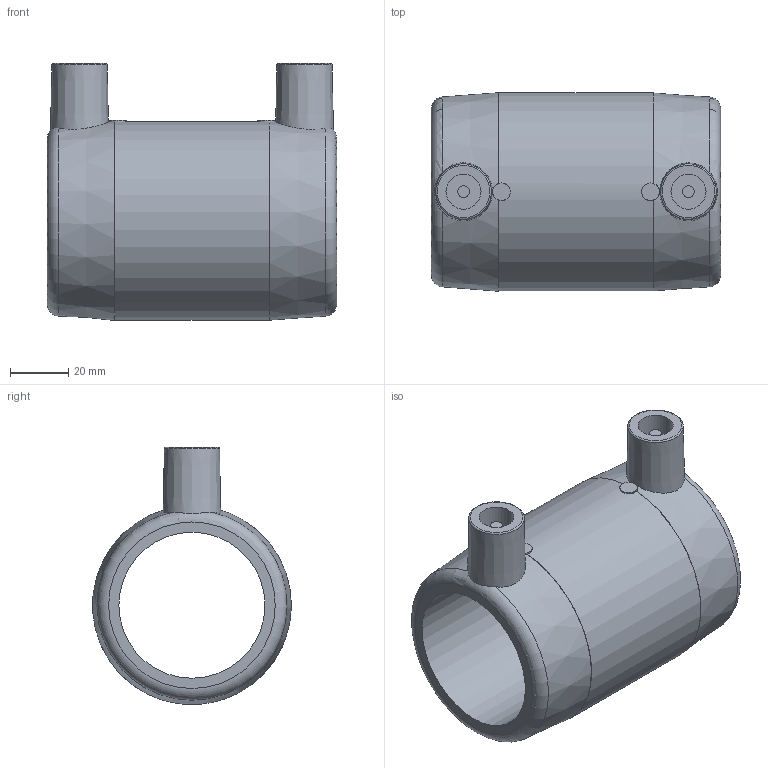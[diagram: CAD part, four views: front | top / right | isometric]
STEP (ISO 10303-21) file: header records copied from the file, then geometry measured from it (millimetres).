
FILE_DESCRIPTION(/* description */ ('Unknown'),/* implementation_level */ '2;1');
FILE_NAME(/* name */ 'MP050H',/* time_stamp */ '2021-05-26T17:22:38+02:00',/* author */ ('Unknown'),/* organization */ ('Unknown'),/* preprocessor_version */ 'ST-DEVELOPER v16.7',/* originating_system */ 'Solid Edge',/* authorisation */ 'Unknown');
FILE_SCHEMA (('AUTOMOTIVE_DESIGN {1 0 10303 214 3 1 1}'));
Length unit declared in the file: millimetre
Products named in the file (1): MP050H
Bounding box: 99 x 67.94 x 87.99 mm (x, y, z)
Volume: 165095.5 mm3; surface area: 42393.6 mm2
Topology: 1 solids, 1 shells, 28 faces, 64 edges, 42 vertices
Faces by surface type: plane 10, cylinder 8, torus 6, cone 4
Full cylindrical faces by diameter (mm): 4 x2, 6 x2, 12 x2, 50 x1, 68 x1
Entity records: 698 total; most frequent: CARTESIAN_POINT 175, DIRECTION 106, ORIENTED_EDGE 72, AXIS2_PLACEMENT_3D 53, EDGE_LOOP 50, FACE_BOUND 50, EDGE_CURVE 36, VERTEX_POINT 30
